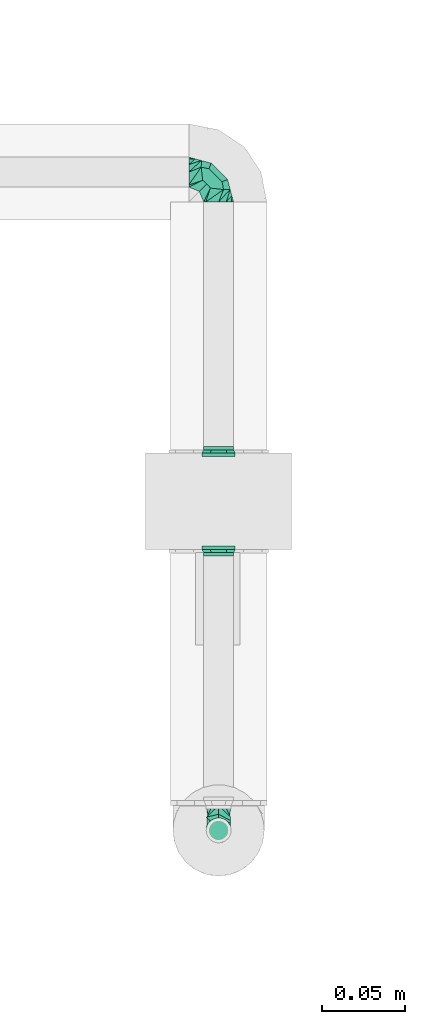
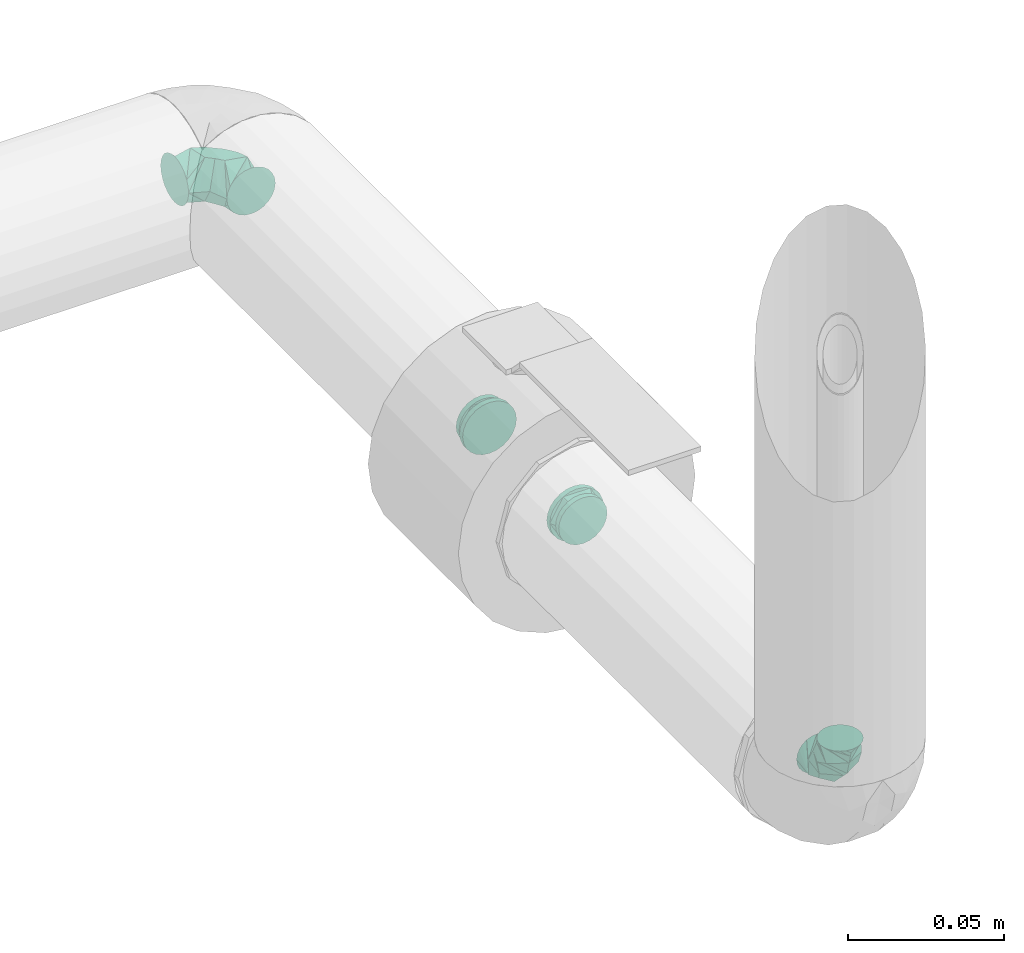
# One storey, part 46 of 78: 4 flow fittings.
"""IFC2X3 building model written with IfcOpenShell, lengths in millimetres."""

import ifcopenshell
import ifcopenshell.guid

model = None  # the IFC model being written
_history = None  # IfcOwnerHistory: only IFC2X3 demands one
_inside = {}  # id of a spatial element -> (the spatial element, [elements in it])
_under = {}  # id of a project, library or spatial element -> (it, [spatial elements below it])
_declared = {}  # id of a project -> (the project, [libraries it declares])
_typed = {}  # id of a type object -> (the type object, [elements of that type])
_made_of = {}  # id of a material, layer set ... -> (it, [elements and type objects made of it])


def new_model(schema):
    """Start an empty IFC model of exactly this schema.

    Asked for "IFC4X3", IfcOpenShell would pick the latest addendum, in which some entities
    have other attributes; the version numbers below select the first issue.
    IFC2X3 requires an IfcOwnerHistory on every rooted entity: one is made here for all.
    """
    global model, _history
    if schema == "IFC4X3":
        model = ifcopenshell.file(schema_version=(4, 3, 0, 0))
    else:
        model = ifcopenshell.file(schema=schema)
    _inside.clear()
    _under.clear()
    _declared.clear()
    _typed.clear()
    _made_of.clear()
    _history = None
    if model.schema == "IFC2X3":
        org = make("IfcOrganization", Name="unknown")
        user = make(
            "IfcPersonAndOrganization",
            ThePerson=make("IfcPerson", FamilyName="unknown"),
            TheOrganization=org,
        )
        app = make(
            "IfcApplication",
            ApplicationDeveloper=org,
            Version="unknown",
            ApplicationFullName="unknown",
            ApplicationIdentifier="unknown",
        )
        _history = make(
            "IfcOwnerHistory",
            OwningUser=user,
            OwningApplication=app,
            ChangeAction="ADDED",
            CreationDate=0,
        )
    return model


def make(cls, **values):
    """One entity of the class cls with the attributes given. An attribute that is None is left unset."""
    return model.create_entity(
        cls, **{name: value for name, value in values.items() if value is not None}
    )


def entity(cls, *values):
    """Any entity or typed value of the class cls, its attributes in the order of the schema. None: left unset."""
    e = model.create_entity(cls)
    for i, value in enumerate(values):
        if value is not None:
            e[i] = value
    return e


def rooted(cls, **values):
    """An entity with a GlobalId (a new one), such as an element, a storey or a relation."""
    return make(cls, GlobalId=ifcopenshell.guid.new(), OwnerHistory=_history, **values)


def si_unit(unit_type, name, prefix=None):
    """IfcSIUnit, for example si_unit("LENGTHUNIT", "METRE", prefix="MILLI")."""
    return make("IfcSIUnit", UnitType=unit_type, Prefix=prefix, Name=name)


def converted_unit(unit_type, name, factor, base, dimensions=None, offset=None):
    """IfcConversionBasedUnit, such as the inch: factor (a typed value) times the base unit."""
    return make(
        "IfcConversionBasedUnit"
        if offset is None
        else "IfcConversionBasedUnitWithOffset",
        ConversionOffset=offset,
        Dimensions=None
        if dimensions is None
        else entity("IfcDimensionalExponents", *dimensions),
        UnitType=unit_type,
        Name=name,
        ConversionFactor=make(
            "IfcMeasureWithUnit", ValueComponent=factor, UnitComponent=base
        ),
    )


def derived_unit(unit_type, elements):
    """IfcDerivedUnit: a product of units, each with its exponent."""
    return make(
        "IfcDerivedUnit",
        Elements=[
            make("IfcDerivedUnitElement", Unit=unit, Exponent=power)
            for unit, power in elements
        ],
        UnitType=unit_type,
    )


def assignment(units):
    """IfcUnitAssignment: the units of a project."""
    return None if units is None else make("IfcUnitAssignment", Units=units)


def point(xyz):
    """IfcCartesianPoint."""
    return None if xyz is None else make("IfcCartesianPoint", Coordinates=xyz)


def direction(xyz):
    """IfcDirection."""
    return None if xyz is None else make("IfcDirection", DirectionRatios=xyz)


def frame(location, z_axis=None, x_axis=None):
    """IfcAxis2Placement3D, a coordinate frame: its origin and axes. An axis left out is left unset."""
    return make(
        "IfcAxis2Placement3D",
        Location=point(location),
        Axis=direction(z_axis),
        RefDirection=direction(x_axis),
    )


def origin_with_axes():
    """The frame at (0, 0, 0) with the z axis (0, 0, 1) and the x axis (1, 0, 0) written out."""
    return frame((0.0, 0.0, 0.0), z_axis=(0.0, 0.0, 1.0), x_axis=(1.0, 0.0, 0.0))


def place(relative_to, where):
    """IfcLocalPlacement: puts the frame where relative to a parent placement (None: the world)."""
    return make(
        "IfcLocalPlacement", PlacementRelTo=relative_to, RelativePlacement=where
    )


def context(
    kind, dimensions, precision=None, world=None, true_north=None, identifier=None
):
    """IfcGeometricRepresentationContext, for example the 3D "Model" context."""
    return make(
        "IfcGeometricRepresentationContext",
        ContextIdentifier=identifier,
        ContextType=kind,
        CoordinateSpaceDimension=dimensions,
        Precision=precision,
        WorldCoordinateSystem=world,
        TrueNorth=true_north,
    )


def subcontext(parent, identifier, kind, view, scale=None):
    """IfcGeometricRepresentationSubContext, for example "Body" below "Model"."""
    return make(
        "IfcGeometricRepresentationSubContext",
        ContextIdentifier=identifier,
        ContextType=kind,
        ParentContext=parent,
        TargetScale=scale,
        TargetView=view,
    )


def project(units=None, contexts=None):
    """IfcProject with its units and contexts."""
    return rooted(
        "IfcProject",
        Name="project",
        RepresentationContexts=contexts,
        UnitsInContext=assignment(units),
    )


def spatial(cls, under=None, at=None, **own):
    """A site, building, storey or space (cls), placed at a placement, below another one or the project."""
    s = rooted(cls, ObjectPlacement=at, **own)
    if under is not None:
        _under.setdefault(under.id(), (under, []))[1].append(s)
    return s


def faces_of(points, faces, orient=None, outer=None):
    """IfcFace entities. A face is a list of loops; a loop is a list of indices into points, from 0.

    orient and outer hold one flag for each loop. By default every Orientation is true, the
    first loop of a face is its IfcFaceOuterBound and the others are IfcFaceBound.
    """
    made = []
    for i, loops in enumerate(faces):
        bounds = []
        for j, loop in enumerate(loops):
            is_outer = j == 0 if outer is None else outer[i][j]
            bounds.append(
                make(
                    "IfcFaceOuterBound" if is_outer else "IfcFaceBound",
                    Bound=make("IfcPolyLoop", Polygon=[points[k] for k in loop]),
                    Orientation=True if orient is None else orient[i][j],
                )
            )
        made.append(make("IfcFace", Bounds=bounds))
    return made


def open_shell(faces, orient=None, outer=None):
    """The faces of one IfcOpenShell. surface_model builds it on its shared points."""
    return ("IfcOpenShell", faces, orient, outer)


def surface_model(cls, points, shells):
    """IfcFaceBasedSurfaceModel or IfcShellBasedSurfaceModel (cls): surfaces that need not close."""
    shared = [point(p) for p in points]
    made = [make(c, CfsFaces=faces_of(shared, fs, o, b)) for c, fs, o, b in shells]
    if cls == "IfcFaceBasedSurfaceModel":
        return make(cls, FbsmFaces=made)
    return make(cls, SbsmBoundary=made)


def shape(context_of_items, identifier, shape_type, items):
    """IfcShapeRepresentation: the items that make up one representation, for example the "Body"."""
    return make(
        "IfcShapeRepresentation",
        ContextOfItems=context_of_items,
        RepresentationIdentifier=identifier,
        RepresentationType=shape_type,
        Items=items,
    )


def source(mapping_origin, context_of_items, identifier, shape_type, items):
    """IfcRepresentationMap: a shape defined once, which mapped items show again and again."""
    return make(
        "IfcRepresentationMap",
        MappingOrigin=mapping_origin,
        MappedRepresentation=shape(context_of_items, identifier, shape_type, items),
    )


def transform(
    local_origin,
    x_axis=None,
    y_axis=None,
    z_axis=None,
    scale=None,
    scale2=None,
    scale3=None,
    uniform=True,
):
    """IfcCartesianTransformationOperator3D, or its non-uniform kind. x_axis, y_axis, z_axis: its Axis1, 2, 3."""
    if uniform:
        return make(
            "IfcCartesianTransformationOperator3D",
            Axis1=direction(x_axis),
            Axis2=direction(y_axis),
            LocalOrigin=point(local_origin),
            Scale=scale,
            Axis3=direction(z_axis),
        )
    return make(
        "IfcCartesianTransformationOperator3DnonUniform",
        Axis1=direction(x_axis),
        Axis2=direction(y_axis),
        LocalOrigin=point(local_origin),
        Scale=scale,
        Axis3=direction(z_axis),
        Scale2=scale2,
        Scale3=scale3,
    )


def mapped(mapping_source, mapping_target):
    """IfcMappedItem: shows the shape of a source again, moved by a transform."""
    return make(
        "IfcMappedItem", MappingSource=mapping_source, MappingTarget=mapping_target
    )


def made_of(thing, what):
    """Note that an element or type object is made of a material, layer set ...; save() writes the relation."""
    if what is not None:
        _made_of.setdefault(what.id(), (what, []))[1].append(thing)
    return thing


def type_object(cls, material=None, **own):
    """A type object (cls), such as IfcWallType, which elements share."""
    return made_of(rooted(cls, **own), material)


def element(
    cls,
    number,
    at=None,
    inside=None,
    cuts=None,
    type_object=None,
    material=None,
    context=None,
    identifier="Body",
    shape_type=None,
    held_by="IfcProductDefinitionShape",
    body=None,
    shapes=None,
    **own,
):
    """One element of the class cls, such as IfcWall. Its Tag is "e" and its number.

    at: its placement. inside: the storey or other place that contains it. cuts: it is an
    opening in that element (IfcRelVoidsElement). A single representation is given by context,
    identifier, shape_type and body (its items); several are given by shapes. held_by: the class
    of the entity that holds the representations. save() writes the other relations.
    """
    e = rooted(cls, Tag="e%d" % number, ObjectPlacement=at, **own)
    if body is not None:
        shapes = [shape(context, identifier, shape_type, body)]
    if shapes is not None:
        e.Representation = make(held_by, Representations=shapes)
    if inside is not None:
        _inside.setdefault(inside.id(), (inside, []))[1].append(e)
    if cuts is not None:
        rooted(
            "IfcRelVoidsElement", RelatingBuildingElement=cuts, RelatedOpeningElement=e
        )
    if type_object is not None:
        _typed.setdefault(type_object.id(), (type_object, []))[1].append(e)
    return made_of(e, material)


def aggregate(whole, parts):
    """IfcRelAggregates: a whole, such as a stair, and the parts it consists of."""
    return rooted("IfcRelAggregates", RelatingObject=whole, RelatedObjects=parts)


def save(model, path):
    """Write the relations noted so far, then the file.

    IfcRelAggregates (storeys below a building ...), IfcRelContainedInSpatialStructure (elements
    in a storey), IfcRelDefinesByType, IfcRelAssociatesMaterial and IfcRelDeclares: one each for
    every whole, place, type object, material and project.
    """
    for whole, parts in _under.values():
        aggregate(whole, parts)
    for where, things in _inside.values():
        rooted(
            "IfcRelContainedInSpatialStructure",
            RelatedElements=things,
            RelatingStructure=where,
        )
    for kind, things in _typed.values():
        rooted("IfcRelDefinesByType", RelatedObjects=things, RelatingType=kind)
    for what, things in _made_of.values():
        rooted("IfcRelAssociatesMaterial", RelatedObjects=things, RelatingMaterial=what)
    for by, libraries in _declared.values():
        rooted("IfcRelDeclares", RelatingContext=by, RelatedDefinitions=libraries)
    model.write(path)


model = new_model("IFC2X3")

# Units and contexts
model_context = context("Model", 3, precision=0.01, world=frame((0.0, 4.29681676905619e-09, 0.0)), true_north=direction((4.01073788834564e-13, 1.0)))
plan_context = context("Plan", 3, precision=0.01, world=frame((0.0, 4.29681676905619e-09, 0.0)), true_north=direction((4.01073788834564e-13, 1.0)))
body_context = subcontext(model_context, "Body", "Model", "MODEL_VIEW")
ifc_project = project(units=[converted_unit("PLANEANGLEUNIT", "DEGREE", entity("IfcPositiveLengthMeasure", 0.0174532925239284), si_unit("PLANEANGLEUNIT", "RADIAN"), dimensions=[0, 0, 0, 0, 0, 0, 0]), si_unit("AREAUNIT", "SQUARE_METRE"), si_unit("LENGTHUNIT", "METRE", prefix="MILLI"), si_unit("MASSUNIT", "GRAM", prefix="KILO"), si_unit("POWERUNIT", "WATT"), si_unit("PRESSUREUNIT", "PASCAL"), si_unit("FORCEUNIT", "NEWTON", prefix="KILO"), si_unit("ELECTRICVOLTAGEUNIT", "VOLT"), si_unit("ELECTRICCURRENTUNIT", "AMPERE"), si_unit("THERMODYNAMICTEMPERATUREUNIT", "DEGREE_CELSIUS"), si_unit("TIMEUNIT", "SECOND"), si_unit("VOLUMEUNIT", "CUBIC_METRE"), derived_unit("LINEARVELOCITYUNIT", [(si_unit("LENGTHUNIT", "METRE"), 1), (si_unit("TIMEUNIT", "SECOND"), -1)]), derived_unit("VOLUMETRICFLOWRATEUNIT", [(si_unit("VOLUMEUNIT", "CUBIC_METRE"), 1), (si_unit("TIMEUNIT", "SECOND"), -1)]), derived_unit("THERMALTRANSMITTANCEUNIT", [(si_unit("POWERUNIT", "WATT"), 1), (si_unit("THERMODYNAMICTEMPERATUREUNIT", "KELVIN"), -1), (si_unit("AREAUNIT", "SQUARE_METRE"), -1)]), derived_unit("SOUNDPRESSUREUNIT", [(si_unit("PRESSUREUNIT", "PASCAL"), 1)])], contexts=[model_context, plan_context])

# Site, building, storey
site_placement = place(None, frame((0.0, -4.29681676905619e-09, 0.0), z_axis=(0.0, 0.0, 1.0), x_axis=(1.0, 0.0, 0.0)))
site = spatial("IfcSite", under=ifc_project, at=site_placement, Name="ENGM", CompositionType="ELEMENT")
building_placement = place(site_placement, frame((0.0, 4.29681676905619e-09, 0.0), z_axis=(0.0, 0.0, 1.0), x_axis=(1.0, 0.0, 0.0)))
building = spatial("IfcBuilding", under=site, at=building_placement, Name="TH", CompositionType="ELEMENT")
storey_placement = place(building_placement, frame((0.0, 0.0, 205200.0), z_axis=(0.0, 0.0, 1.0), x_axis=(1.0, 0.0, 0.0)))
storey = spatial("IfcBuildingStorey", under=building, at=storey_placement, Name="Nivå D + 1,2 m", CompositionType="ELEMENT", Elevation=205200.0)

# Flow fittings
pipe_fitting_type_1 = type_object("IfcPipeFittingType", Name="magi_pipe_cu_elbow_short_001", PredefinedType="BEND")
shared_shape_1 = source(origin_with_axes(), body_context, "Body", "SurfaceModel", [
    surface_model("IfcShellBasedSurfaceModel", [(-18.0, 4.5, -7.79423), (-18.0, 2.32937, -8.69333), (-18.0, 0.0, -9.0), (-18.0, -6.36396, -6.36396), (-18.0, 8.69333, -2.32937), (-18.0, 7.79423, -4.5), (-18.0, 6.36396, -6.36396), (-18.0, -4.5, -7.79423), (-18.0, -2.32937, -8.69333), (-18.0, -7.79423, -4.5), (-18.0, -8.69333, -2.32937), (-18.0, -9.0, 0.0), (-18.0, 8.69333, 2.32937), (-18.0, -8.69333, 2.32937), (-18.0, 7.79423, 4.5), (-18.0, 6.36396, 6.36396), (-18.0, 2.32937, 8.69333), (-18.0, 4.5, 7.79423), (-18.0, -7.79423, 4.5), (-18.0, -6.36396, 6.36396), (-18.0, -4.5, 7.79423), (-18.0, -2.32937, 8.69333), (-18.0, 0.0, 9.0), (-18.0, 9.0, 0.0), (0.0, 18.0, -9.0), (-2.32937, 18.0, -8.69333), (-4.5, 18.0, -7.79423), (6.36396, 18.0, -6.36396), (-6.36396, 18.0, -6.36396), (-7.79423, 18.0, -4.5), (-8.69333, 18.0, -2.32937), (-8.69333, 18.0, 2.32937), (2.32937, 18.0, -8.69333), (4.5, 18.0, -7.79423), (8.69333, 18.0, -2.32937), (7.79423, 18.0, -4.5), (9.0, 18.0, 0.0), (7.79423, 18.0, 4.5), (-9.0, 18.0, 0.0), (-6.36396, 18.0, 6.36396), (-7.79423, 18.0, 4.5), (-4.5, 18.0, 7.79423), (-2.32937, 18.0, 8.69333), (6.36396, 18.0, 6.36396), (8.69333, 18.0, 2.32937), (2.32937, 18.0, 8.69333), (4.5, 18.0, 7.79423), (0.0, 18.0, 9.0), (-16.09014, -8.48825, 0.0), (-10.51068, -2.97249, 7.92278), (-10.36056, -6.95302, 0.0), (-4.5, -5.38269, 0.0), (0.44134, -0.44134, 0.0), (2.91201, 2.02933, 0.0), (-2.70211, 1.18586, 7.65564), (-2.02933, -2.91201, 0.0), (-14.18028, -7.97651, 0.0), (-7.11648, 7.11648, 8.61373), (-4.93977, 9.63211, 8.64898), (2.97249, 10.51068, 7.92278), (2.01286, 5.84889, 7.1903), (5.38269, 4.5, 0.0), (-5.73616, -2.07922, 7.10204), (8.48825, 16.09014, 0.0), (7.97651, 14.18028, 0.0), (-9.63211, 4.93977, 8.64898), (-10.31802, 14.81802, 0.0), (-14.81802, 10.31802, 0.0), (-11.63604, 11.63604, 0.0), (6.95302, 10.36056, 0.0), (-10.51068, -2.97249, -7.92278), (-4.93977, 9.63211, -8.64898), (0.8585, 4.1248, -7.1903), (-2.68792, 2.14037, -8.03971), (2.97249, 10.51068, -7.92278), (-13.67048, 7.29638, -6.27272), (-8.50355, 2.18787, -8.98901), (-9.83427, 8.11209, -7.36254)], [open_shell([[[0, 1, 2]], [[0, 2, 3]], [[0, 4, 5]], [[6, 0, 5]], [[4, 0, 3]], [[7, 3, 8]], [[3, 2, 8]], [[9, 10, 3]], [[11, 3, 10]], [[3, 11, 4]], [[11, 12, 4]], [[12, 11, 13]], [[14, 12, 15]], [[16, 17, 15]], [[13, 15, 12]], [[15, 18, 16]], [[18, 19, 16]], [[15, 13, 18]], [[20, 21, 19]], [[22, 19, 21]], [[16, 19, 22]], [[23, 4, 12]], [[24, 25, 26]], [[27, 24, 26]], [[28, 29, 30]], [[28, 30, 26]], [[26, 31, 27]], [[32, 27, 33]], [[32, 24, 27]], [[27, 34, 35]], [[34, 27, 36]], [[27, 37, 36]], [[26, 30, 38]], [[27, 31, 37]], [[39, 31, 40]], [[39, 41, 42]], [[39, 42, 31]], [[43, 31, 42]], [[31, 43, 37]], [[44, 36, 37]], [[43, 45, 46]], [[45, 43, 47]], [[47, 43, 42]], [[31, 26, 38]], [[13, 48, 18]], [[49, 50, 51]], [[52, 53, 54]], [[54, 55, 52]], [[20, 19, 56]], [[18, 56, 19]], [[57, 54, 58]], [[20, 50, 21]], [[22, 21, 50]], [[59, 60, 61]], [[59, 58, 60]], [[55, 54, 62]], [[22, 50, 49]], [[22, 49, 16]], [[62, 49, 51]], [[62, 51, 55]], [[37, 63, 44]], [[49, 17, 16]], [[64, 63, 37]], [[12, 65, 23]], [[14, 15, 49]], [[54, 65, 62]], [[17, 49, 15]], [[58, 38, 66]], [[67, 57, 68]], [[53, 60, 54]], [[45, 47, 69]], [[69, 46, 45]], [[39, 59, 41]], [[42, 59, 47]], [[43, 46, 64]], [[68, 57, 66]], [[64, 46, 69]], [[61, 60, 53]], [[44, 63, 36]], [[59, 61, 69]], [[38, 58, 31]], [[20, 56, 50]], [[54, 57, 65]], [[49, 65, 14]], [[66, 57, 58]], [[64, 37, 43]], [[40, 31, 58]], [[14, 65, 12]], [[39, 40, 59]], [[13, 11, 48]], [[40, 58, 59]], [[48, 56, 18]], [[41, 59, 42]], [[59, 69, 47]], [[49, 62, 65]], [[57, 67, 65]], [[54, 60, 58]], [[67, 23, 65]], [[70, 50, 2]], [[71, 72, 73]], [[74, 71, 29]], [[70, 1, 0]], [[70, 51, 50]], [[34, 36, 63]], [[75, 6, 5]], [[75, 4, 23]], [[5, 4, 75]], [[51, 76, 55]], [[75, 23, 67]], [[70, 6, 75]], [[48, 11, 10]], [[7, 56, 3]], [[2, 50, 8]], [[51, 70, 76]], [[56, 7, 50]], [[7, 8, 50]], [[70, 2, 1]], [[66, 38, 71]], [[52, 72, 53]], [[6, 70, 0]], [[70, 75, 76]], [[73, 52, 55]], [[71, 68, 66]], [[61, 53, 72]], [[33, 64, 69]], [[30, 71, 38]], [[28, 74, 29]], [[56, 9, 3]], [[26, 25, 74]], [[63, 64, 35]], [[56, 48, 9]], [[26, 74, 28]], [[9, 48, 10]], [[24, 74, 25]], [[32, 69, 24]], [[29, 71, 30]], [[27, 64, 33]], [[69, 32, 33]], [[68, 71, 77]], [[74, 24, 69]], [[35, 34, 63]], [[61, 72, 74]], [[61, 74, 69]], [[67, 77, 75]], [[74, 72, 71]], [[35, 64, 27]], [[76, 77, 73]], [[75, 77, 76]], [[77, 71, 73]], [[55, 76, 73]], [[72, 52, 73]], [[77, 67, 68]]])]),
])
flow_fitting_1_placement = place(storey_placement, frame((904834.075, 478275.49112, 4410.0), z_axis=(0.0, 0.0, 1.0), x_axis=(0.0, 1.0, 0.0)))
element("IfcFlowFitting", 1, at=flow_fitting_1_placement, inside=storey, type_object=pipe_fitting_type_1, Name="magi_pipe_cu_elbow_short_001", context=body_context, shape_type="MappedRepresentation", body=[
    mapped(shared_shape_1, transform((0.0, 0.0, 0.0), scale=1.0)),
])
pipe_fitting_type_2 = type_object("IfcPipeFittingType", Name="magi_pipe_cu_reducer_centric_short_001", PredefinedType="TRANSITION")
shared_shape_2 = source(origin_with_axes(), body_context, "Body", "SurfaceModel", [
    surface_model("IfcShellBasedSurfaceModel", [(-2.0, 0.0, 9.0), (-2.0, 2.32937, 8.69333), (-2.0, 4.5, 7.79423), (-2.0, 6.36396, 6.36396), (-2.0, -9.0, 0.0), (-2.0, -8.69333, -2.32937), (-2.0, 7.79423, 4.5), (-2.0, -2.32937, 8.69333), (-2.0, -6.36396, 6.36396), (-2.0, -4.5, 7.79423), (-2.0, -8.69333, 2.32937), (-2.0, -7.79423, 4.5), (-2.0, 8.69333, 2.32937), (-2.0, 8.69333, -2.32937), (-2.0, 6.36396, -6.36396), (-2.0, 7.79423, -4.5), (-2.0, 4.5, -7.79423), (-2.0, 2.32937, -8.69333), (-2.0, -4.5, -7.79423), (-2.0, -6.36396, -6.36396), (-2.0, -7.79423, -4.5), (-2.0, 0.0, -9.0), (-2.0, -2.32937, -8.69333), (-2.0, 9.0, 0.0), (0.0, 4.5, -7.79423), (0.0, -6.36396, -6.36396), (0.0, 2.32937, -8.69333), (0.0, 8.69333, -2.32937), (0.0, 6.36396, -6.36396), (0.0, 7.79423, -4.5), (0.0, 7.79423, 4.5), (0.0, -8.69333, -2.32937), (0.0, 0.0, -9.0), (0.0, -4.5, -7.79423), (0.0, -2.32937, -8.69333), (0.0, -7.79423, -4.5), (0.0, 9.0, 0.0), (0.0, 8.69333, 2.32937), (0.0, -9.0, 0.0), (0.0, 0.0, 9.0), (0.0, 6.36396, 6.36396), (0.0, 4.5, 7.79423), (0.0, 2.32937, 8.69333), (0.0, -6.36396, 6.36396), (0.0, -8.69333, 2.32937), (0.0, -7.79423, 4.5), (0.0, -2.32937, 8.69333), (0.0, -4.5, 7.79423), (4.0, 2.58819, -9.65926), (4.0, 5.0, -8.66025), (4.0, 7.07107, -7.07107), (4.0, 8.66025, -5.0), (4.0, 9.65926, -2.58819), (4.0, 10.0, 0.0), (4.0, -8.66025, 5.0), (4.0, -2.58819, -9.65926), (4.0, -8.66025, -5.0), (4.0, -5.0, -8.66025), (4.0, 0.0, -10.0), (4.0, -7.07107, -7.07107), (4.0, -10.0, 0.0), (4.0, -9.65926, -2.58819), (4.0, 9.65926, 2.58819), (4.0, 8.66025, 5.0), (4.0, 7.07107, 7.07107), (4.0, 5.0, 8.66025), (4.0, 2.58819, 9.65926), (4.0, 0.0, 10.0), (4.0, -7.07107, 7.07107), (4.0, -9.65926, 2.58819), (4.0, -5.0, 8.66025), (4.0, -2.58819, 9.65926), (2.0, 0.0, 10.0), (2.0, 2.58819, 9.65926), (2.0, 5.0, 8.66025), (2.0, -5.0, 8.66025), (2.0, 7.07107, 7.07107), (2.0, 8.66025, 5.0), (2.0, 9.65926, 2.58819), (2.0, -9.65926, 2.58819), (2.0, -7.07107, 7.07107), (2.0, -2.58819, 9.65926), (2.0, -8.66025, 5.0), (2.0, -10.0, 0.0), (2.0, 10.0, 0.0), (2.0, 9.65926, -2.58819), (2.0, 8.66025, -5.0), (2.0, 2.58819, -9.65926), (2.0, 7.07107, -7.07107), (2.0, 5.0, -8.66025), (2.0, -2.58819, -9.65926), (2.0, -9.65926, -2.58819), (2.0, -7.07107, -7.07107), (2.0, -8.66025, -5.0), (2.0, -5.0, -8.66025), (2.0, 0.0, -10.0)], [open_shell([[[0, 1, 2]], [[0, 2, 3]], [[4, 0, 5]], [[6, 0, 3]], [[6, 5, 0]], [[7, 8, 9]], [[7, 0, 8]], [[8, 10, 11]], [[10, 8, 4]], [[0, 4, 8]], [[6, 12, 13]], [[5, 6, 13]], [[14, 13, 15]], [[13, 16, 5]], [[16, 13, 14]], [[17, 18, 16]], [[5, 19, 20]], [[5, 16, 19]], [[18, 21, 22]], [[18, 19, 16]], [[21, 18, 17]], [[13, 12, 23]], [[24, 25, 26]], [[27, 24, 28]], [[25, 24, 27]], [[27, 28, 29]], [[30, 31, 27]], [[32, 33, 34]], [[33, 32, 25]], [[25, 31, 35]], [[25, 32, 26]], [[27, 31, 25]], [[27, 36, 37]], [[38, 31, 30]], [[39, 30, 40]], [[41, 42, 39]], [[41, 39, 40]], [[43, 30, 39]], [[44, 43, 45]], [[43, 44, 38]], [[43, 46, 47]], [[43, 38, 30]], [[39, 46, 43]], [[30, 27, 37]], [[5, 31, 4]], [[20, 35, 5]], [[33, 19, 18]], [[20, 19, 25]], [[34, 18, 22]], [[5, 35, 31]], [[31, 38, 4]], [[34, 33, 18]], [[25, 19, 33]], [[25, 35, 20]], [[32, 34, 22]], [[22, 21, 32]], [[17, 26, 21]], [[16, 24, 17]], [[29, 14, 15]], [[16, 14, 28]], [[27, 15, 13]], [[16, 28, 24]], [[24, 26, 17]], [[36, 27, 13]], [[29, 15, 27]], [[29, 28, 14]], [[23, 36, 13]], [[21, 26, 32]], [[12, 37, 23]], [[6, 30, 12]], [[41, 3, 2]], [[6, 3, 40]], [[42, 2, 1]], [[12, 30, 37]], [[37, 36, 23]], [[42, 41, 2]], [[40, 3, 41]], [[40, 30, 6]], [[39, 42, 1]], [[1, 0, 39]], [[7, 46, 0]], [[9, 47, 7]], [[45, 8, 11]], [[9, 8, 43]], [[44, 11, 10]], [[9, 43, 47]], [[47, 46, 7]], [[38, 44, 10]], [[45, 11, 44]], [[45, 43, 8]], [[4, 38, 10]], [[0, 46, 39]], [[48, 49, 50]], [[48, 50, 51]], [[52, 53, 48]], [[52, 48, 51]], [[54, 55, 48]], [[55, 56, 57]], [[55, 58, 48]], [[57, 56, 59]], [[56, 55, 54]], [[60, 61, 56]], [[54, 48, 53]], [[62, 63, 64]], [[62, 64, 65]], [[65, 66, 67]], [[62, 65, 54]], [[68, 65, 67]], [[60, 54, 69]], [[56, 54, 60]], [[67, 70, 68]], [[54, 65, 68]], [[71, 70, 67]], [[54, 53, 62]], [[72, 73, 74]], [[75, 72, 74]], [[76, 77, 78]], [[75, 74, 76]], [[75, 76, 78]], [[75, 79, 80]], [[75, 81, 72]], [[80, 79, 82]], [[79, 75, 83]], [[78, 83, 75]], [[78, 84, 83]], [[84, 85, 86]], [[84, 86, 87]], [[88, 89, 87]], [[88, 87, 86]], [[87, 90, 83]], [[91, 92, 93]], [[92, 91, 94]], [[91, 90, 94]], [[83, 90, 91]], [[87, 95, 90]], [[83, 84, 87]], [[91, 61, 83]], [[93, 56, 91]], [[57, 92, 94]], [[93, 92, 59]], [[55, 94, 90]], [[91, 56, 61]], [[61, 60, 83]], [[55, 57, 94]], [[59, 92, 57]], [[59, 56, 93]], [[58, 55, 90]], [[90, 95, 58]], [[87, 48, 95]], [[89, 49, 87]], [[51, 88, 86]], [[89, 88, 50]], [[52, 86, 85]], [[89, 50, 49]], [[49, 48, 87]], [[53, 52, 85]], [[51, 86, 52]], [[51, 50, 88]], [[84, 53, 85]], [[95, 48, 58]], [[78, 62, 84]], [[77, 63, 78]], [[65, 76, 74]], [[77, 76, 64]], [[66, 74, 73]], [[78, 63, 62]], [[62, 53, 84]], [[66, 65, 74]], [[64, 76, 65]], [[64, 63, 77]], [[67, 66, 73]], [[73, 72, 67]], [[81, 71, 72]], [[75, 70, 81]], [[54, 80, 82]], [[75, 80, 68]], [[69, 82, 79]], [[75, 68, 70]], [[70, 71, 81]], [[60, 69, 79]], [[54, 82, 69]], [[54, 68, 80]], [[83, 60, 79]], [[72, 71, 67]], [[74, 89, 84]], [[83, 74, 75]], [[83, 94, 89]], [[83, 89, 74]], [[38, 47, 33]], [[36, 47, 41]], [[36, 24, 33]], [[36, 33, 47]], [[38, 33, 94]], [[94, 83, 38]], [[33, 89, 94]], [[24, 36, 84]], [[84, 89, 24]], [[24, 89, 33]], [[36, 41, 74]], [[74, 84, 36]], [[41, 75, 74]], [[47, 38, 83]], [[83, 75, 47]], [[47, 75, 41]]])]),
])
for number, where, z_axis, x_axis, name in (
    (2, (904834.075, 478046.26399, 4410.0), (0.0, 0.0, 1.0), (0.0, 1.0, 0.0), "magi_pipe_cu_reducer_centric_short_001"),
    (3, (904834.075, 478108.26399, 4410.0), (0.0, 0.0, 1.0), (0.0, -1.0, 0.0), "magi_pipe_cu_reducer_centric_short_001"),
):
    element("IfcFlowFitting", number, at=place(storey_placement, frame(where, z_axis=z_axis, x_axis=x_axis)), inside=storey, type_object=pipe_fitting_type_2, Name=name, context=body_context, shape_type="MappedRepresentation", body=[
        mapped(shared_shape_2, transform((0.0, 0.0, 0.0), scale=1.0)),
    ])
shared_shape_3 = source(origin_with_axes(), body_context, "Body", "SurfaceModel", [
    surface_model("IfcShellBasedSurfaceModel", [(-15.0, 0.0, -7.5), (-15.0, -6.49519, -3.75), (-15.0, 1.94114, -7.24444), (-15.0, 3.75, -6.49519), (-15.0, 5.3033, -5.3033), (-15.0, 7.24444, -1.94114), (-15.0, 6.49519, -3.75), (-15.0, -5.3033, -5.3033), (-15.0, -3.75, -6.49519), (-15.0, -1.94114, -7.24444), (-15.0, -7.24444, -1.94114), (-15.0, -7.5, 0.0), (-15.0, -6.49519, 3.75), (-15.0, 7.24444, 1.94114), (-15.0, 6.49519, 3.75), (-15.0, 3.75, 6.49519), (-15.0, 1.94114, 7.24444), (-15.0, 5.3033, 5.3033), (-15.0, -5.3033, 5.3033), (-15.0, -7.24444, 1.94114), (-15.0, -1.94114, 7.24444), (-15.0, 0.0, 7.5), (-15.0, -3.75, 6.49519), (-15.0, 7.5, 0.0), (-1.94114, 15.0, -7.24444), (6.49519, 15.0, -3.75), (0.0, 15.0, -7.5), (-5.3033, 15.0, -5.3033), (-3.75, 15.0, -6.49519), (-6.49519, 15.0, -3.75), (-7.24444, 15.0, -1.94114), (3.75, 15.0, -6.49519), (5.3033, 15.0, -5.3033), (1.94114, 15.0, -7.24444), (7.5, 15.0, 0.0), (7.24444, 15.0, -1.94114), (-7.5, 15.0, 0.0), (-7.24444, 15.0, 1.94114), (-6.49519, 15.0, 3.75), (-3.75, 15.0, 6.49519), (-1.94114, 15.0, 7.24444), (-5.3033, 15.0, 5.3033), (5.3033, 15.0, 5.3033), (6.49519, 15.0, 3.75), (7.24444, 15.0, 1.94114), (3.75, 15.0, 6.49519), (0.0, 15.0, 7.5), (1.94114, 15.0, 7.24444), (-13.40845, -7.07355, 0.0), (-8.7589, -2.47707, 6.60232), (-8.6338, -5.79418, 0.0), (-3.75, -4.48557, 0.0), (0.36779, -0.36779, 0.0), (2.42668, 1.69111, 0.0), (-2.25176, 0.98822, 6.3797), (-1.69111, -2.42668, 0.0), (-11.8169, -6.64709, 0.0), (-5.9304, 5.9304, 7.17811), (-4.11647, 8.02676, 7.20749), (2.47708, 8.7589, 6.60232), (1.67739, 4.87408, 5.99192), (4.48557, 3.75, 0.0), (-4.78013, -1.73268, 5.91836), (7.07355, 13.40845, 0.0), (6.64709, 11.8169, 0.0), (-8.02675, 4.11647, 7.20749), (-8.59835, 12.34835, 0.0), (-12.34835, 8.59835, 0.0), (-9.6967, 9.6967, 0.0), (5.79418, 8.6338, 0.0), (-8.7589, -2.47707, -6.60232), (-4.11647, 8.02676, -7.20749), (0.71542, 3.43733, -5.99192), (-2.23993, 1.78364, -6.69976), (2.47708, 8.7589, -6.60232), (-11.39207, 6.08032, -5.22727), (-7.08629, 1.82323, -7.49084), (-8.19523, 6.76007, -6.13545)], [open_shell([[[0, 1, 2]], [[3, 2, 4]], [[5, 6, 4]], [[4, 2, 1]], [[5, 4, 1]], [[7, 1, 8]], [[9, 8, 1]], [[10, 11, 1]], [[0, 9, 1]], [[11, 12, 1]], [[12, 5, 1]], [[13, 5, 12]], [[14, 13, 15]], [[13, 16, 15]], [[17, 14, 15]], [[16, 13, 12]], [[12, 18, 16]], [[12, 11, 19]], [[20, 21, 22]], [[18, 22, 21]], [[16, 18, 21]], [[13, 23, 5]], [[24, 25, 26]], [[27, 24, 28]], [[27, 29, 30]], [[25, 24, 27]], [[25, 27, 30]], [[31, 25, 32]], [[25, 31, 33]], [[25, 34, 35]], [[25, 33, 26]], [[30, 34, 25]], [[30, 36, 34]], [[36, 37, 38]], [[36, 38, 39]], [[40, 34, 39]], [[39, 38, 41]], [[40, 42, 34]], [[42, 43, 34]], [[44, 34, 43]], [[45, 46, 47]], [[45, 42, 40]], [[45, 40, 46]], [[39, 34, 36]], [[19, 48, 12]], [[49, 50, 51]], [[52, 53, 54]], [[54, 55, 52]], [[22, 18, 56]], [[12, 56, 18]], [[57, 54, 58]], [[22, 50, 20]], [[21, 20, 50]], [[59, 60, 61]], [[59, 58, 60]], [[55, 54, 62]], [[21, 50, 49]], [[21, 49, 16]], [[62, 49, 51]], [[62, 51, 55]], [[43, 63, 44]], [[49, 15, 16]], [[64, 63, 43]], [[13, 65, 23]], [[14, 17, 49]], [[54, 65, 62]], [[15, 49, 17]], [[57, 58, 66]], [[67, 57, 68]], [[53, 60, 54]], [[47, 46, 69]], [[69, 45, 47]], [[41, 59, 39]], [[40, 59, 46]], [[42, 45, 64]], [[54, 60, 58]], [[64, 45, 69]], [[61, 60, 53]], [[44, 63, 34]], [[59, 61, 69]], [[58, 36, 66]], [[22, 56, 50]], [[54, 57, 65]], [[49, 65, 14]], [[37, 36, 58]], [[64, 43, 42]], [[38, 37, 58]], [[14, 65, 13]], [[41, 38, 59]], [[19, 11, 48]], [[38, 58, 59]], [[48, 56, 12]], [[39, 59, 40]], [[59, 69, 46]], [[49, 62, 65]], [[57, 67, 65]], [[66, 68, 57]], [[67, 23, 65]], [[70, 50, 0]], [[71, 72, 73]], [[74, 71, 29]], [[70, 2, 3]], [[70, 51, 50]], [[35, 34, 63]], [[75, 4, 6]], [[75, 5, 23]], [[6, 5, 75]], [[51, 76, 55]], [[75, 23, 67]], [[70, 4, 75]], [[48, 11, 10]], [[8, 56, 7]], [[0, 50, 9]], [[51, 70, 76]], [[56, 8, 50]], [[8, 9, 50]], [[70, 0, 2]], [[66, 36, 71]], [[52, 72, 53]], [[4, 70, 3]], [[70, 75, 76]], [[73, 52, 55]], [[71, 68, 66]], [[61, 53, 72]], [[31, 64, 69]], [[30, 71, 36]], [[27, 74, 29]], [[56, 1, 7]], [[28, 24, 74]], [[63, 64, 25]], [[56, 48, 1]], [[28, 74, 27]], [[1, 48, 10]], [[26, 74, 24]], [[33, 69, 26]], [[29, 71, 30]], [[32, 64, 31]], [[69, 33, 31]], [[68, 71, 77]], [[74, 26, 69]], [[25, 35, 63]], [[61, 72, 74]], [[61, 74, 69]], [[67, 77, 75]], [[74, 72, 71]], [[25, 64, 32]], [[76, 77, 73]], [[75, 77, 76]], [[77, 71, 73]], [[55, 76, 73]], [[72, 52, 73]], [[77, 67, 68]]])]),
])
flow_fitting_2_placement = place(storey_placement, frame((904834.075, 477879.03687, 4410.0), z_axis=(1.0, 0.0, 0.0), x_axis=(0.0, 3.999999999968e-06, -0.999999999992)))
element("IfcFlowFitting", 4, at=flow_fitting_2_placement, inside=storey, type_object=pipe_fitting_type_1, Name="magi_pipe_cu_elbow_short_001", context=body_context, shape_type="MappedRepresentation", body=[
    mapped(shared_shape_3, transform((0.0, 0.0, 0.0), scale=1.0)),
])

save(model, "model.ifc")
